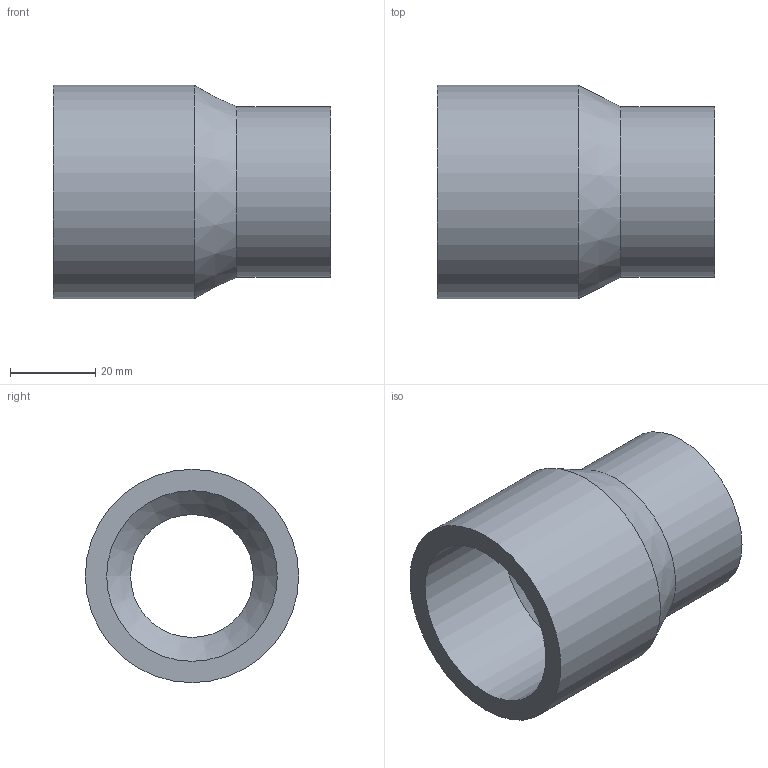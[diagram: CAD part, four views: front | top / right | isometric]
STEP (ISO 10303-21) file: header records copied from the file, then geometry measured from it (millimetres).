
FILE_DESCRIPTION(/* description */ ('PLASSON REDUCING SOCKET M.F.50(40)32 CEMENTED'),/* implementation_level */ '2;1');
FILE_NAME(/* name */ 'C:\Dropbox\KIMPROJECTS-Inventor\99-16-3568-Processing\PVC Catalog 2017\050200\050200050032.ipt.stp',/* time_stamp */ '2017-12-07T15:52:34+02:00',/* author */ ('KIM'),/* organization */ (''),/* preprocessor_version */ 'ST-DEVELOPER v15.6',/* originating_system */ 'Autodesk Inventor 2015',/* authorisation */ '');
FILE_SCHEMA (('AUTOMOTIVE_DESIGN { 1 0 10303 214 3 1 1 }'));
Length unit declared in the file: millimetre
Products named in the file (1): 050200050032
Bounding box: 65 x 50 x 50 mm (x, y, z)
Volume: 45368 mm3; surface area: 18207.1 mm2
Topology: 1 solids, 1 shells, 10 faces, 17 edges, 10 vertices
Faces by surface type: cylinder 5, plane 3, cone 2
Full cylindrical faces by diameter (mm): 28.8 x1, 32 x1, 40 x2, 50 x1
Entity records: 232 total; most frequent: DIRECTION 42, CARTESIAN_POINT 31, AXIS2_PLACEMENT_3D 21, EDGE_LOOP 20, ORIENTED_EDGE 20, FACE_BOUND 10, FACE_OUTER_BOUND 10, CIRCLE 10
